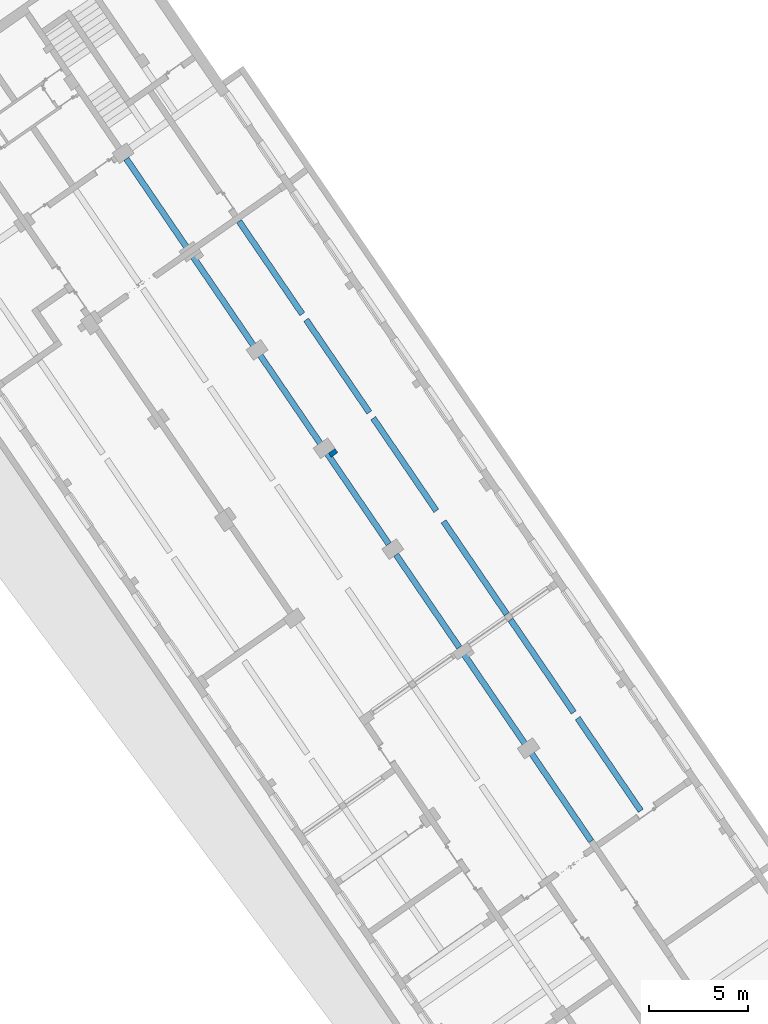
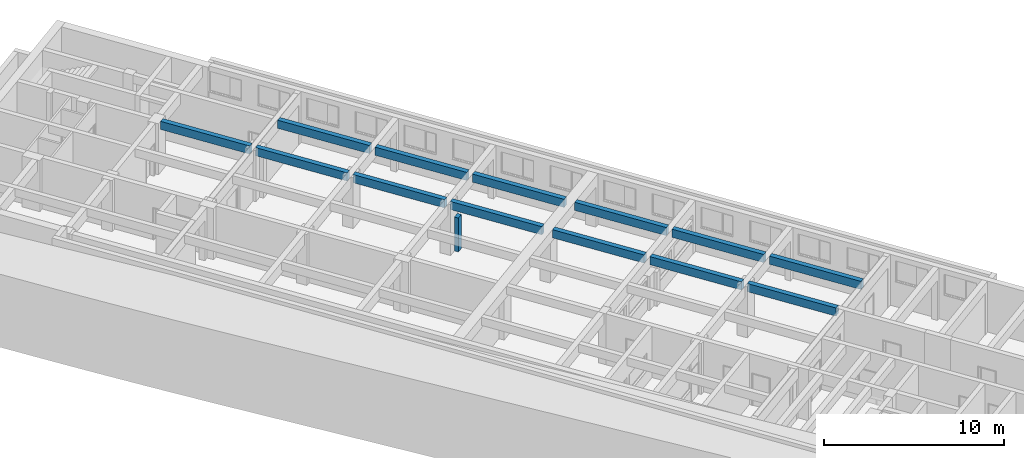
# One storey, part 62 of 112: 3 walls, 6 openings.
"""IFC2X3 building model written with IfcOpenShell, lengths in millimetres."""

from ifc_helpers import new_model, entity, si_unit, converted_unit, derived_unit, direction, frame, frame_2d, origin, origin_2d_with_axis, place, context, subcontext, project, spatial, polyline, rectangle, outline, extrude, material, layer, layer_set, layer_usage, type_object, element, save


model = new_model("IFC2X3")

# Units and contexts
model_context = context("Model", 3, precision=0.01, world=origin(), true_north=direction((6.123031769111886e-17, 1.0)))
body_context = subcontext(model_context, "Body", "Model", "MODEL_VIEW")
ifc_project = project(units=[si_unit("LENGTHUNIT", "METRE", prefix="MILLI"), si_unit("AREAUNIT", "SQUARE_METRE"), si_unit("VOLUMEUNIT", "CUBIC_METRE"), converted_unit("PLANEANGLEUNIT", "DEGREE", entity("IfcRatioMeasure", 0.017453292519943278), si_unit("PLANEANGLEUNIT", "RADIAN"), dimensions=[0, 0, 0, 0, 0, 0, 0]), si_unit("MASSUNIT", "GRAM", prefix="KILO"), derived_unit("MASSDENSITYUNIT", [(si_unit("MASSUNIT", "GRAM", prefix="KILO"), 1), (si_unit("LENGTHUNIT", "METRE"), -3)]), derived_unit("MOMENTOFINERTIAUNIT", [(si_unit("LENGTHUNIT", "METRE"), 4)]), si_unit("TIMEUNIT", "SECOND"), si_unit("FREQUENCYUNIT", "HERTZ"), si_unit("THERMODYNAMICTEMPERATUREUNIT", "DEGREE_CELSIUS"), derived_unit("THERMALTRANSMITTANCEUNIT", [(si_unit("MASSUNIT", "GRAM", prefix="KILO"), 1), (si_unit("THERMODYNAMICTEMPERATUREUNIT", "KELVIN"), -1), (si_unit("TIMEUNIT", "SECOND"), -3)]), derived_unit("THERMALCONDUCTANCEUNIT", [(si_unit("MASSUNIT", "GRAM", prefix="KILO"), 1), (si_unit("LENGTHUNIT", "METRE"), 1), (si_unit("THERMODYNAMICTEMPERATUREUNIT", "KELVIN"), -1), (si_unit("TIMEUNIT", "SECOND"), -3)]), derived_unit("VOLUMETRICFLOWRATEUNIT", [(si_unit("LENGTHUNIT", "METRE"), 3), (si_unit("TIMEUNIT", "SECOND"), -1)]), derived_unit("MASSFLOWRATEUNIT", [(si_unit("MASSUNIT", "GRAM", prefix="KILO"), 1), (si_unit("TIMEUNIT", "SECOND"), -1)]), derived_unit("ROTATIONALFREQUENCYUNIT", [(si_unit("TIMEUNIT", "SECOND"), -1)]), si_unit("ELECTRICCURRENTUNIT", "AMPERE"), si_unit("ELECTRICVOLTAGEUNIT", "VOLT"), si_unit("POWERUNIT", "WATT"), converted_unit("FORCEUNIT", "KIP", entity("IfcRatioMeasure", 2.088543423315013e-05), si_unit("FORCEUNIT", "NEWTON"), dimensions=[1, 1, -2, 0, 0, 0, 0]), si_unit("ILLUMINANCEUNIT", "LUX"), si_unit("LUMINOUSFLUXUNIT", "LUMEN"), si_unit("LUMINOUSINTENSITYUNIT", "CANDELA"), derived_unit("USERDEFINED", [(si_unit("MASSUNIT", "GRAM", prefix="KILO"), -1), (si_unit("LENGTHUNIT", "METRE"), -2), (si_unit("TIMEUNIT", "SECOND"), 3), (si_unit("LUMINOUSFLUXUNIT", "LUMEN"), 1)]), derived_unit("USERDEFINED", [(si_unit("MASSUNIT", "GRAM", prefix="KILO"), 1), (si_unit("LENGTHUNIT", "METRE"), 3), (si_unit("TIMEUNIT", "SECOND"), -3), (si_unit("ELECTRICCURRENTUNIT", "AMPERE"), -2)]), derived_unit("USERDEFINED", [(si_unit("LENGTHUNIT", "METRE"), 2), (si_unit("TIMEUNIT", "SECOND"), -2)]), derived_unit("SOUNDPOWERUNIT", [(si_unit("MASSUNIT", "GRAM", prefix="KILO"), 1), (si_unit("LENGTHUNIT", "METRE"), 2), (si_unit("TIMEUNIT", "SECOND"), -3)]), derived_unit("SOUNDPRESSUREUNIT", [(si_unit("MASSUNIT", "GRAM", prefix="KILO"), 1), (si_unit("LENGTHUNIT", "METRE"), -1), (si_unit("TIMEUNIT", "SECOND"), -2)]), derived_unit("LINEARVELOCITYUNIT", [(si_unit("LENGTHUNIT", "METRE"), 1), (si_unit("TIMEUNIT", "SECOND"), -1)]), si_unit("PRESSUREUNIT", "PASCAL"), derived_unit("USERDEFINED", [(si_unit("LENGTHUNIT", "METRE"), -2), (si_unit("MASSUNIT", "GRAM", prefix="KILO"), 1), (si_unit("TIMEUNIT", "SECOND"), -2)]), derived_unit("LINEARFORCEUNIT", [(si_unit("MASSUNIT", "GRAM", prefix="KILO"), 1), (si_unit("LENGTHUNIT", "METRE"), 1), (si_unit("TIMEUNIT", "SECOND"), -2), (si_unit("LENGTHUNIT", "METRE"), -1)]), derived_unit("PLANARFORCEUNIT", [(si_unit("MASSUNIT", "GRAM", prefix="KILO"), 1), (si_unit("LENGTHUNIT", "METRE"), 1), (si_unit("TIMEUNIT", "SECOND"), -2), (si_unit("LENGTHUNIT", "METRE"), -2)]), derived_unit("SPECIFICHEATCAPACITYUNIT", [(si_unit("LENGTHUNIT", "METRE"), 2), (si_unit("TIMEUNIT", "SECOND"), -2), (si_unit("THERMODYNAMICTEMPERATUREUNIT", "KELVIN"), -1)]), derived_unit("VAPORPERMEABILITYUNIT", [(si_unit("TIMEUNIT", "SECOND"), 1), (si_unit("LENGTHUNIT", "METRE"), -1)]), derived_unit("DYNAMICVISCOSITYUNIT", [(si_unit("MASSUNIT", "GRAM", prefix="KILO"), 1), (si_unit("LENGTHUNIT", "METRE"), -1), (si_unit("TIMEUNIT", "SECOND"), -1)]), derived_unit("THERMALEXPANSIONCOEFFICIENTUNIT", [(si_unit("THERMODYNAMICTEMPERATUREUNIT", "KELVIN"), -1)])], contexts=[model_context])

# Site, building, storey
site_placement = place(None, frame((0.0, 0.0, 0.0), z_axis=(0.0, 0.0, 1.0), x_axis=(0.8191520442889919, 0.5735764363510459, 0.0)))
site = spatial("IfcSite", under=ifc_project, at=site_placement, Name="Default", CompositionType="ELEMENT")
building_placement = place(site_placement, origin())
building = spatial("IfcBuilding", under=site, at=building_placement, CompositionType="ELEMENT")
storey_placement = place(building_placement, frame((0.0, 0.0, -3600.0)))
storey = spatial("IfcBuildingStorey", under=building, at=storey_placement, Name="0.UG -3.60", CompositionType="ELEMENT", Elevation=-3600.0000000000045)

# Wall, openings
ifc_material = material(Name="Analytical Wall Surface_CJC")
ifc_layer_1 = layer(ifc_material, 300.0)
ifc_layer_set_1 = layer_set([ifc_layer_1], Name="Basic Wall:Wand_Innen_30")
ifc_layer_usage_1 = layer_usage(ifc_layer_set_1, "AXIS2", "NEGATIVE", 150.0)
wall_type_1 = type_object("IfcWallType", Name="Basic Wall:Wand_Innen_30", PredefinedType="STANDARD", material=ifc_layer_set_1)
wall_1_placement = place(storey_placement, frame((-210866.42775071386, 122048.26835250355, 2900.0), z_axis=(0.0, 0.0, 1.0), x_axis=(0.012729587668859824, 0.999918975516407, 0.0)))
wall_1 = element("IfcWallStandardCase", 1, at=wall_1_placement, inside=storey, type_object=wall_type_1, material=ifc_layer_usage_1, Name="Basic Wall:Wand_Innen_30", ObjectType="Basic Wall:Wand_Innen_30", context=body_context, shape_type="SweptSolid", body=[
    extrude(rectangle(XDim=41624.06754537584, YDim=300.0000000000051, at=frame_2d((20812.03377268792, 5.9969806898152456e-12), x_axis=(-1.0, 0.0))), origin(), (0.0, 0.0, 1.0), 550.0),
])
opening_1_placement = place(storey_placement, frame((-210866.42775071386, 122048.26835250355, 2900.0), z_axis=(0.0, 0.0, 1.0), x_axis=(0.012729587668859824, 0.999918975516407, 0.0)))
element("IfcOpeningElement", 2, at=opening_1_placement, cuts=wall_1, Name="Basic Wall:Wand_Innen_30:1", ObjectType="Opening", context=body_context, shape_type="SweptSolid", body=[
    extrude(rectangle(XDim=550.0, YDim=300.0243093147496, at=origin_2d_with_axis()), frame((17474.506424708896, 0.0, 275.0), z_axis=(0.9999189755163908, 0.012729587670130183, 0.0), x_axis=(0.0, 0.0, -1.0)), (0.0, -0.012729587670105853, 0.9999189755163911), 650.0526701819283),
])
opening_2_placement = place(storey_placement, frame((-210866.42775071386, 122048.26835250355, 2900.0), z_axis=(0.0, 0.0, 1.0), x_axis=(0.012729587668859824, 0.999918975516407, 0.0)))
element("IfcOpeningElement", 3, at=opening_2_placement, cuts=wall_1, Name="Basic Wall:Wand_Innen_30:2", ObjectType="Opening", context=body_context, shape_type="SweptSolid", body=[
    extrude(rectangle(XDim=550.0, YDim=300.0243093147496, at=origin_2d_with_axis()), frame((11474.020238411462, 0.0, 275.0), z_axis=(0.99991897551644, 0.012729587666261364, 0.0), x_axis=(0.0, 0.0, -1.0)), (0.0, -0.01272958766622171, 0.9999189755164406), 350.02836086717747),
])
opening_3_placement = place(storey_placement, frame((-210866.42775071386, 122048.26835250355, 2900.0), z_axis=(0.0, 0.0, 1.0), x_axis=(0.012729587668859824, 0.999918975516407, 0.0)))
element("IfcOpeningElement", 4, at=opening_3_placement, cuts=wall_1, Name="Basic Wall:Wand_Innen_30:3", ObjectType="Opening", context=body_context, shape_type="SweptSolid", body=[
    extrude(rectangle(XDim=550.0, YDim=300.0243093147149, at=origin_2d_with_axis()), frame((5473.534052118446, 0.0, 275.0), z_axis=(0.9999189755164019, 0.012729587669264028, 0.0), x_axis=(0.0, 0.0, -1.0)), (0.0, -0.012729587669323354, 0.9999189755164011), 350.0283608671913),
])
opening_4_placement = place(storey_placement, frame((-210866.42775071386, 122048.26835250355, 2900.0), z_axis=(0.0, 0.0, 1.0), x_axis=(0.012729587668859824, 0.999918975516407, 0.0)))
element("IfcOpeningElement", 5, at=opening_4_placement, cuts=wall_1, Name="Basic Wall:Wand_Innen_30:4", ObjectType="Opening", context=body_context, shape_type="SweptSolid", body=[
    extrude(rectangle(XDim=550.0, YDim=300.0243093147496, at=origin_2d_with_axis()), frame((35775.989292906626, 0.0, 275.0), z_axis=(0.9999189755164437, 0.012729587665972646, 0.0), x_axis=(0.0, 0.0, -1.0)), (0.0, -0.012729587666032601, 0.9999189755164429), 350.0283608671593),
])
opening_5_placement = place(storey_placement, frame((-210866.42775071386, 122048.26835250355, 2900.0), z_axis=(0.0, 0.0, 1.0), x_axis=(0.012729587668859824, 0.999918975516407, 0.0)))
element("IfcOpeningElement", 6, at=opening_5_placement, cuts=wall_1, Name="Basic Wall:Wand_Innen_30:5", ObjectType="Opening", context=body_context, shape_type="SweptSolid", body=[
    extrude(rectangle(XDim=550.0, YDim=300.02430931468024, at=frame_2d((0.0, 1.7337242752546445e-11), x_axis=(1.0, 0.0))), frame((29775.503106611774, 0.0, 275.0), z_axis=(0.9999189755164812, 0.012729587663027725, 0.0), x_axis=(0.0, 0.0, -1.0)), (0.0, -0.012729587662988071, 0.9999189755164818), 350.02836086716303),
])
opening_6_placement = place(storey_placement, frame((-210866.42775071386, 122048.26835250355, 2900.0), z_axis=(0.0, 0.0, 1.0), x_axis=(0.012729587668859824, 0.999918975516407, 0.0)))
element("IfcOpeningElement", 7, at=opening_6_placement, cuts=wall_1, Name="Basic Wall:Wand_Innen_30:6", ObjectType="Opening", context=body_context, shape_type="SweptSolid", body=[
    extrude(rectangle(XDim=550.0, YDim=300.0243093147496, at=origin_2d_with_axis()), frame((23775.016920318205, 0.0, 275.0), z_axis=(0.999918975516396, 0.012729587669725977, 0.0), x_axis=(0.0, 0.0, -1.0)), (0.0, -0.012729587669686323, 0.9999189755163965), 350.0283608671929),
])

# Walls
wall_2_placement = place(storey_placement, frame((-207945.5753288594, 121869.44947620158, 2900.0), z_axis=(0.0, 0.0, 1.0), x_axis=(0.012729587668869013, 0.9999189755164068, 0.0)))
element("IfcWall", 8, at=wall_2_placement, inside=storey, type_object=wall_type_1, Name="Basic Wall:Wand_Innen_30", ObjectType="Basic Wall:Wand_Innen_30", context=body_context, shape_type="SweptSolid", body=[
    extrude(outline(polyline([(-2823.319319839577, -150.0), (2827.1385055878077, -150.0), (2823.3193198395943, 150.0), (-2827.1385055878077, 150.0), (-2823.319319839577, -150.0)])), frame((2827.138505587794, 0.0, 0.0)), (0.0, 0.0, 1.0), 550.0),
    extrude(outline(polyline([(-2823.3193198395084, -150.0), (2827.1385055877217, -150.0), (2823.3193198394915, 150.0), (-2827.1385055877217, 150.0), (-2823.3193198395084, -150.0)])), frame((33129.593746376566, 0.0, 0.0), z_axis=(0.0, 0.0, 1.0), x_axis=(-1.0, 0.0, 0.0)), (0.0, 0.0, 1.0), 549.9999999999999),
    extrude(outline(polyline([(-2823.319319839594, -150.0), (2827.138505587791, -150.0), (2823.3193198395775, 150.0), (-2827.138505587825, 150.0), (-2823.319319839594, -150.0)])), frame((27129.107560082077, 0.0, 0.0)), (0.0, 0.0, 1.0), 550.0),
    extrude(outline(polyline([(-2823.3193198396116, -150.0), (2827.138505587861, -150.0), (2823.3193198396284, 150.0), (-2827.138505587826, 150.0), (-2823.3193198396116, -150.0)])), frame((21128.621373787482, 0.0, 0.0), z_axis=(0.0, 0.0, 1.0), x_axis=(-1.0, 0.0, 0.0)), (0.0, 0.0, 1.0), 549.9999999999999),
    extrude(outline(polyline([(-2823.31931983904, -150.0), (2827.1385055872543, -150.0), (2823.31931983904, 150.0), (-2827.1385055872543, 150.0), (-2823.31931983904, -150.0)])), frame((8827.624691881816, 0.0, 0.0)), (0.0, 0.0, 1.0), 550.0),
    extrude(outline(polyline([(-2823.3193198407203, -150.0), (2827.138505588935, -150.0), (2823.3193198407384, 150.0), (-2827.1385055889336, 150.0), (-2823.3193198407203, -150.0)])), frame((14828.11087817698, 0.0, 0.0)), (0.0, 0.0, 1.0), 550.0),
])
ifc_layer_2 = layer(ifc_material, 400.0)
ifc_layer_set_2 = layer_set([ifc_layer_2], Name="Basic Wall:Wand_Innen_40")
ifc_layer_usage_2 = layer_usage(ifc_layer_set_2, "AXIS2", "NEGATIVE", 200.0)
wall_type_2 = type_object("IfcWallType", Name="Basic Wall:Wand_Innen_40", PredefinedType="STANDARD", material=ifc_layer_set_2)
wall_3_placement = place(storey_placement, frame((-210295.78950637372, 145421.35891435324, 0.0), z_axis=(0.0, 0.0, 1.0), x_axis=(0.0, 1.0, 0.0)))
element("IfcWallStandardCase", 9, at=wall_3_placement, inside=storey, type_object=wall_type_2, material=ifc_layer_usage_2, Name="Basic Wall:Wand_Innen_40", ObjectType="Basic Wall:Wand_Innen_40", context=body_context, shape_type="SweptSolid", body=[
    extrude(rectangle(XDim=249.9999999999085, YDim=399.9999999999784, at=frame_2d((124.99999999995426, 1.4210854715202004e-13), x_axis=(-1.0, 0.0))), origin(), (0.0, 0.0, 1.0), 2300.0),
])

save(model, "model.ifc")
